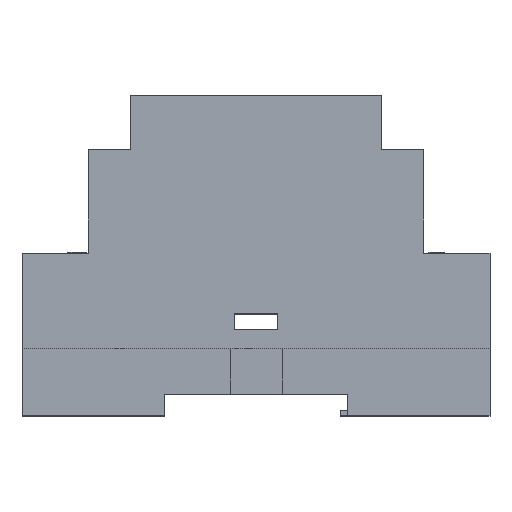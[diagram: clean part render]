
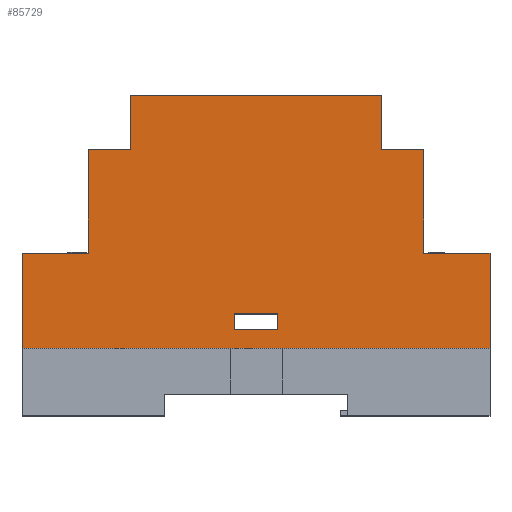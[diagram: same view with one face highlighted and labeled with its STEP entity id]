
A CAD part, top view. The second image highlights one B-rep face of the part: STEP entity #85729.
In plain terms, the highlighted planar face has unit normal (0, 0, 1).
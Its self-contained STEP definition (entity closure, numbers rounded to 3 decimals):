
#251 = ORIENTED_EDGE ( 'NONE', *, *, #76145, .T. ) ;
#644 = LINE ( 'NONE', #15892, #6115 ) ;
#646 = EDGE_CURVE ( 'NONE', #28649, #70992, #32201, .T. ) ;
#995 = VECTOR ( 'NONE', #82216, 1000. ) ;
#1072 = DIRECTION ( 'NONE',  ( -1., 0., 0. ) ) ;
#1467 = CARTESIAN_POINT ( 'NONE',  ( 32.25, 38.3, 37.3 ) ) ;
#2020 = DIRECTION ( 'NONE',  ( 0., -1., 0. ) ) ;
#2719 = VECTOR ( 'NONE', #17821, 1000. ) ;
#3197 = DIRECTION ( 'NONE',  ( 0., -1., 0. ) ) ;
#5737 = PLANE ( 'NONE',  #22984 ) ;
#6115 = VECTOR ( 'NONE', #2020, 1000. ) ;
#7359 = VERTEX_POINT ( 'NONE', #73571 ) ;
#8630 = DIRECTION ( 'NONE',  ( -1., 0., 0. ) ) ;
#9406 = EDGE_CURVE ( 'NONE', #14152, #69873, #11907, .T. ) ;
#10837 = EDGE_CURVE ( 'NONE', #33944, #90964, #74587, .T. ) ;
#11043 = CARTESIAN_POINT ( 'NONE',  ( -45., 18.3, 37.3 ) ) ;
#11238 = EDGE_LOOP ( 'NONE', ( #251, #76920, #24703, #36504 ) ) ;
#11413 = CARTESIAN_POINT ( 'NONE',  ( -24.1, 48.6, 37.3 ) ) ;
#11907 = LINE ( 'NONE', #81392, #48791 ) ;
#12687 = FACE_BOUND ( 'NONE', #11238, .T. ) ;
#14152 = VERTEX_POINT ( 'NONE', #67058 ) ;
#15346 = LINE ( 'NONE', #1467, #19773 ) ;
#15892 = CARTESIAN_POINT ( 'NONE',  ( -24.1, 48.6, 37.3 ) ) ;
#16156 = LINE ( 'NONE', #11043, #46510 ) ;
#16474 = VECTOR ( 'NONE', #1072, 1000. ) ;
#16982 = EDGE_CURVE ( 'NONE', #68549, #28649, #16156, .T. ) ;
#17317 = CARTESIAN_POINT ( 'NONE',  ( -45., 0., 37.3 ) ) ;
#17821 = DIRECTION ( 'NONE',  ( 0., 1., 0. ) ) ;
#18771 = CARTESIAN_POINT ( 'NONE',  ( 24.1, 48.6, 37.3 ) ) ;
#19773 = VECTOR ( 'NONE', #57965, 1000. ) ;
#20319 = DIRECTION ( 'NONE',  ( 1., 0., 0. ) ) ;
#20507 = EDGE_CURVE ( 'NONE', #83076, #79095, #65055, .T. ) ;
#22486 = CARTESIAN_POINT ( 'NONE',  ( -24.1, 38.3, 37.3 ) ) ;
#22715 = CARTESIAN_POINT ( 'NONE',  ( 45., 18.3, 37.3 ) ) ;
#22773 = VERTEX_POINT ( 'NONE', #22486 ) ;
#22984 = AXIS2_PLACEMENT_3D ( 'NONE', #46535, #33521, #60870 ) ;
#23013 = LINE ( 'NONE', #74309, #91028 ) ;
#23790 = EDGE_CURVE ( 'NONE', #22773, #83076, #72165, .T. ) ;
#24198 = ORIENTED_EDGE ( 'NONE', *, *, #41217, .T. ) ;
#24703 = ORIENTED_EDGE ( 'NONE', *, *, #59606, .T. ) ;
#25710 = CARTESIAN_POINT ( 'NONE',  ( -45., 0., 37.3 ) ) ;
#27263 = LINE ( 'NONE', #55980, #86144 ) ;
#28547 = CARTESIAN_POINT ( 'NONE',  ( 24.1, 48.6, 37.3 ) ) ;
#28649 = VERTEX_POINT ( 'NONE', #17317 ) ;
#29296 = CARTESIAN_POINT ( 'NONE',  ( -32.25, 18.3, 37.3 ) ) ;
#29323 = VERTEX_POINT ( 'NONE', #11413 ) ;
#29599 = EDGE_CURVE ( 'NONE', #43310, #7359, #39569, .T. ) ;
#29866 = CARTESIAN_POINT ( 'NONE',  ( -32.25, 38.3, 37.3 ) ) ;
#30027 = EDGE_LOOP ( 'NONE', ( #32199, #70169, #50314, #35895, #41933, #40816, #88813, #42030, #24198, #65791, #33554, #50500 ) ) ;
#30202 = LINE ( 'NONE', #87617, #74794 ) ;
#30345 = LINE ( 'NONE', #88227, #2719 ) ;
#31905 = VECTOR ( 'NONE', #8630, 1000. ) ;
#32199 = ORIENTED_EDGE ( 'NONE', *, *, #60134, .T. ) ;
#32201 = LINE ( 'NONE', #25710, #995 ) ;
#33521 = DIRECTION ( 'NONE',  ( 0., 0., -1. ) ) ;
#33554 = ORIENTED_EDGE ( 'NONE', *, *, #79878, .T. ) ;
#33781 = CARTESIAN_POINT ( 'NONE',  ( 4.15, 6.66, 37.3 ) ) ;
#33944 = VERTEX_POINT ( 'NONE', #79754 ) ;
#35895 = ORIENTED_EDGE ( 'NONE', *, *, #51105, .T. ) ;
#36374 = VECTOR ( 'NONE', #59252, 1000. ) ;
#36504 = ORIENTED_EDGE ( 'NONE', *, *, #85652, .T. ) ;
#36921 = VECTOR ( 'NONE', #58124, 1000. ) ;
#37104 = VERTEX_POINT ( 'NONE', #33781 ) ;
#38660 = DIRECTION ( 'NONE',  ( -1., 0., 0. ) ) ;
#39569 = LINE ( 'NONE', #80792, #41926 ) ;
#40656 = VERTEX_POINT ( 'NONE', #18771 ) ;
#40816 = ORIENTED_EDGE ( 'NONE', *, *, #646, .T. ) ;
#41217 = EDGE_CURVE ( 'NONE', #7359, #33944, #15346, .T. ) ;
#41235 = CARTESIAN_POINT ( 'NONE',  ( -45., 18.3, 37.3 ) ) ;
#41514 = CARTESIAN_POINT ( 'NONE',  ( 4.15, 3.58, 37.3 ) ) ;
#41926 = VECTOR ( 'NONE', #38660, 1000. ) ;
#41933 = ORIENTED_EDGE ( 'NONE', *, *, #16982, .T. ) ;
#42030 = ORIENTED_EDGE ( 'NONE', *, *, #29599, .T. ) ;
#42309 = CARTESIAN_POINT ( 'NONE',  ( -32.25, 18.3, 37.3 ) ) ;
#43310 = VERTEX_POINT ( 'NONE', #22715 ) ;
#46079 = DIRECTION ( 'NONE',  ( 0., -1., 0. ) ) ;
#46199 = CARTESIAN_POINT ( 'NONE',  ( -4.15, 6.66, 37.3 ) ) ;
#46510 = VECTOR ( 'NONE', #3197, 1000. ) ;
#46535 = CARTESIAN_POINT ( 'NONE',  ( 0., 0., 37.3 ) ) ;
#47589 = VECTOR ( 'NONE', #85136, 1000. ) ;
#48791 = VECTOR ( 'NONE', #61920, 1000. ) ;
#50314 = ORIENTED_EDGE ( 'NONE', *, *, #20507, .T. ) ;
#50500 = ORIENTED_EDGE ( 'NONE', *, *, #88368, .T. ) ;
#50647 = CARTESIAN_POINT ( 'NONE',  ( 24.1, 38.3, 37.3 ) ) ;
#51084 = LINE ( 'NONE', #29296, #16474 ) ;
#51105 = EDGE_CURVE ( 'NONE', #79095, #68549, #51084, .T. ) ;
#55980 = CARTESIAN_POINT ( 'NONE',  ( 0., 6.66, 37.3 ) ) ;
#57965 = DIRECTION ( 'NONE',  ( 0., 1., 0. ) ) ;
#57990 = CARTESIAN_POINT ( 'NONE',  ( -32.25, 38.3, 37.3 ) ) ;
#58124 = DIRECTION ( 'NONE',  ( 0., -1., 0. ) ) ;
#58866 = VERTEX_POINT ( 'NONE', #41514 ) ;
#59252 = DIRECTION ( 'NONE',  ( 0., 1., 0. ) ) ;
#59382 = DIRECTION ( 'NONE',  ( -1., 0., 0. ) ) ;
#59606 = EDGE_CURVE ( 'NONE', #69873, #37104, #27263, .T. ) ;
#60134 = EDGE_CURVE ( 'NONE', #29323, #22773, #644, .T. ) ;
#60169 = CARTESIAN_POINT ( 'NONE',  ( 45., 18.3, 37.3 ) ) ;
#60870 = DIRECTION ( 'NONE',  ( 0., -1., 0. ) ) ;
#61920 = DIRECTION ( 'NONE',  ( 0., 1., 0. ) ) ;
#65055 = LINE ( 'NONE', #29866, #36921 ) ;
#65791 = ORIENTED_EDGE ( 'NONE', *, *, #10837, .T. ) ;
#67058 = CARTESIAN_POINT ( 'NONE',  ( -4.15, 3.58, 37.3 ) ) ;
#68074 = VECTOR ( 'NONE', #75963, 1000. ) ;
#68266 = FACE_OUTER_BOUND ( 'NONE', #30027, .T. ) ;
#68549 = VERTEX_POINT ( 'NONE', #41235 ) ;
#69873 = VERTEX_POINT ( 'NONE', #46199 ) ;
#70169 = ORIENTED_EDGE ( 'NONE', *, *, #23790, .T. ) ;
#70992 = VERTEX_POINT ( 'NONE', #89810 ) ;
#72165 = LINE ( 'NONE', #86061, #47589 ) ;
#73571 = CARTESIAN_POINT ( 'NONE',  ( 32.25, 18.3, 37.3 ) ) ;
#74309 = CARTESIAN_POINT ( 'NONE',  ( 4.15, 0., 37.3 ) ) ;
#74587 = LINE ( 'NONE', #75039, #68074 ) ;
#74794 = VECTOR ( 'NONE', #59382, 1000. ) ;
#75039 = CARTESIAN_POINT ( 'NONE',  ( 24.1, 38.3, 37.3 ) ) ;
#75698 = EDGE_CURVE ( 'NONE', #70992, #43310, #76242, .T. ) ;
#75963 = DIRECTION ( 'NONE',  ( -1., 0., 0. ) ) ;
#76145 = EDGE_CURVE ( 'NONE', #58866, #14152, #30202, .T. ) ;
#76242 = LINE ( 'NONE', #60169, #36374 ) ;
#76920 = ORIENTED_EDGE ( 'NONE', *, *, #9406, .T. ) ;
#78568 = LINE ( 'NONE', #28547, #31905 ) ;
#79095 = VERTEX_POINT ( 'NONE', #42309 ) ;
#79754 = CARTESIAN_POINT ( 'NONE',  ( 32.25, 38.3, 37.3 ) ) ;
#79878 = EDGE_CURVE ( 'NONE', #90964, #40656, #30345, .T. ) ;
#80792 = CARTESIAN_POINT ( 'NONE',  ( 32.25, 18.3, 37.3 ) ) ;
#81392 = CARTESIAN_POINT ( 'NONE',  ( -4.15, 0., 37.3 ) ) ;
#82216 = DIRECTION ( 'NONE',  ( 1., 0., 0. ) ) ;
#83076 = VERTEX_POINT ( 'NONE', #57990 ) ;
#85136 = DIRECTION ( 'NONE',  ( -1., 0., 0. ) ) ;
#85652 = EDGE_CURVE ( 'NONE', #37104, #58866, #23013, .T. ) ;
#85729 = ADVANCED_FACE ( 'NONE', ( #12687, #68266 ), #5737, .F. ) ;
#86061 = CARTESIAN_POINT ( 'NONE',  ( -24.1, 38.3, 37.3 ) ) ;
#86144 = VECTOR ( 'NONE', #20319, 1000. ) ;
#87617 = CARTESIAN_POINT ( 'NONE',  ( 0., 3.58, 37.3 ) ) ;
#88227 = CARTESIAN_POINT ( 'NONE',  ( 24.1, 48.6, 37.3 ) ) ;
#88368 = EDGE_CURVE ( 'NONE', #40656, #29323, #78568, .T. ) ;
#88813 = ORIENTED_EDGE ( 'NONE', *, *, #75698, .T. ) ;
#89810 = CARTESIAN_POINT ( 'NONE',  ( 45., 0., 37.3 ) ) ;
#90964 = VERTEX_POINT ( 'NONE', #50647 ) ;
#91028 = VECTOR ( 'NONE', #46079, 1000. ) ;
